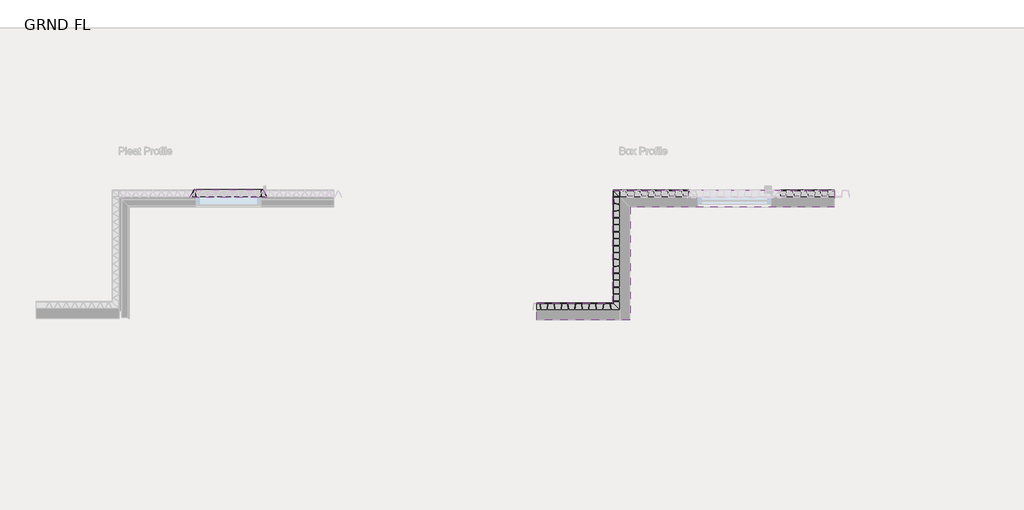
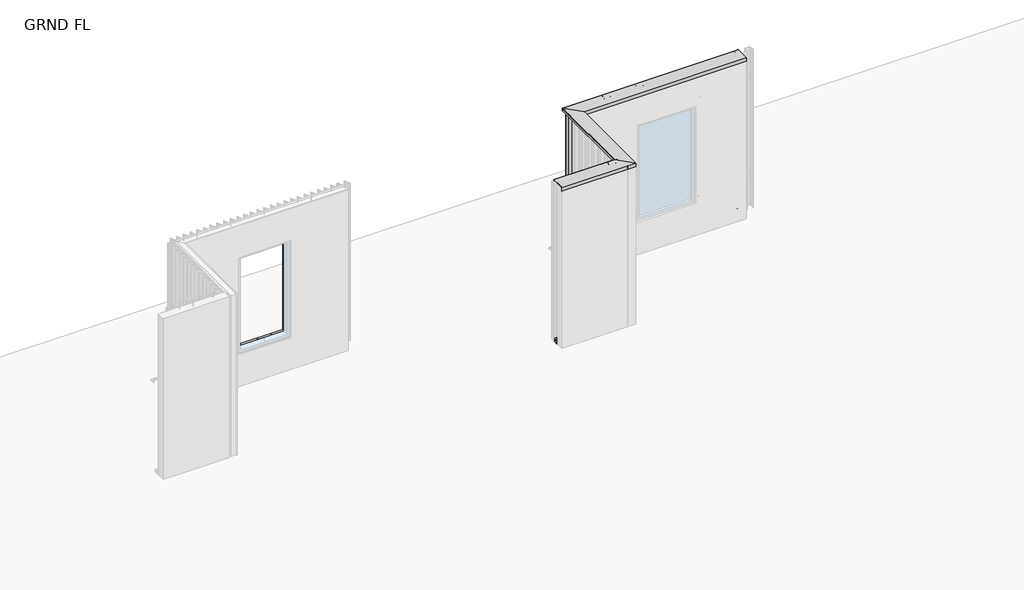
# One storey, part 10 of 13: 6 proxies.
"""IFC4 building model written with IfcOpenShell, lengths in millimetres."""

from ifc_helpers import new_model, si_unit, frame, origin, place, context, project, spatial, polyline, circle_curve, ellipse_curve, outline, extrude, faceted_brep, element, save
from ifc_brep_helpers import plane_surface, cylinder_surface, revolved_surface, advanced_brep

model = new_model("IFC4")

# Units and contexts
model_context = context("Model", 3, world=origin())
ifc_project = project(units=[si_unit("LENGTHUNIT", "METRE", prefix="MILLI")], contexts=[model_context])

# Site, building, storey
site = spatial("IfcSite", under=ifc_project)
building = spatial("IfcBuilding", under=site)
storey = spatial("IfcBuildingStorey", under=building, Name="GRND FL", Elevation=35277.5920148)

# Proxies
placement = place(None, origin())
element("IfcBuildingElementProxy", 1, Name="Nineline Pleat Jamb Flashing 10x105", ObjectType="Nineline Pleat Jamb Flashing 10x105", at=placement, inside=storey, context=model_context, shape_type="SweptSolid", body=[
    extrude(outline(polyline([(56490.3904497, -3642.6143634), (56545.2356645, -3743.6267405), (56563.2356645, -3743.6267405), (56563.2356645, -3744.6146039), (56544.6341373, -3744.6146039), (56489.7956426, -3643.6146039), (56481.3963468, -3643.6146039), (56481.3963468, -3767.6146039), (56480.3963468, -3767.6146039), (56480.3963468, -3642.6143634), (56490.3904497, -3642.6143634)])), frame((0.0, 0.0, 35877.5920148), z_axis=(0.0, 0.0, 1.0), x_axis=(1.0, 0.0, 0.0)), (0.0, 0.0, 1.0), 1800.0),
])
element("IfcBuildingElementProxy", 2, Name="Nineline Parapet Capping 235", ObjectType="Nineline Parapet Capping 235", at=placement, inside=storey, context=model_context, shape_type="AdvancedBrep", body=[
    advanced_brep(
    [(61398.6836337, -3650.6146039, 38279.5924717), (61398.6836337, -3650.6146039, 38232.5920148), (61402.6836337, -3654.6146039, 38265.1694005), (61401.6910875, -3653.6220578, 38265.2912699), (61399.6836337, -3651.6146039, 38248.9418703), (61399.6836337, -3651.6146039, 38279.5924717), (61401.7185385, -3653.6495087, 38281.5921671), (61637.6836337, -3889.6146039, 38277.473381), (61637.6836337, -3889.6146039, 38212.5920148), (61638.6836337, -3890.6146039, 38212.5920148), (61638.6836337, -3890.6146039, 38278.4560783), (61401.7359909, -3653.6669611, 38282.5920148), (64493.6836337, -3650.6146039, 38279.5924717), (64493.6836337, -3653.6669611, 38282.5920148), (64493.6836337, -3890.6146039, 38278.4560783), (64493.6836337, -3890.6146039, 38212.5920148), (64493.6836337, -3889.6146039, 38212.5920148), (64493.6836337, -3889.6146039, 38277.473381), (64493.6836337, -3653.6495087, 38281.5921671), (64493.6836337, -3651.6146039, 38279.5924717), (64493.6836337, -3651.6146039, 38248.9418703), (64493.6836337, -3653.6220578, 38265.2912699), (64493.6836337, -3654.6146039, 38265.1694005), (64493.6836337, -3650.6146039, 38232.5920148)],
    [
        (0, 1),
        (1, 2),
        (2, 3),
        (3, 4),
        (4, 5),
        (5, 6, ellipse_curve(frame((61401.6836337, -3653.6146039, 38279.5924717), z_axis=(0.7071067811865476, 0.7071067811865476, 0.0), x_axis=(0.7071067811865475, -0.7071067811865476, 0.0)), 2.8284271, 2.0)),
        (6, 7),
        (7, 8),
        (8, 9),
        (9, 10),
        (10, 11),
        (11, 0, ellipse_curve(frame((61401.6836337, -3653.6146039, 38279.5924717), z_axis=(-0.7071067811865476, -0.7071067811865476, 0.0), x_axis=(-0.7071067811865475, 0.7071067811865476, 0.0)), 4.2426407, 3.0)),
        (12, 13, circle_curve(frame((64493.6836337, -3653.6146039, 38279.5924717), z_axis=(1.0, 0.0, 0.0), x_axis=(0.0, 1.0, 0.0)), 3.0)),
        (13, 14),
        (14, 15),
        (15, 16),
        (16, 17),
        (17, 18),
        (18, 19, circle_curve(frame((64493.6836337, -3653.6146039, 38279.5924717), z_axis=(-1.0, 0.0, 0.0), x_axis=(0.0, 1.0, 0.0)), 2.0)),
        (19, 20),
        (20, 21),
        (21, 22),
        (22, 23),
        (23, 12),
        (0, 12),
        (23, 1),
        (22, 2),
        (21, 3),
        (20, 4),
        (19, 5),
        (18, 6),
        (17, 7),
        (16, 8),
        (15, 9),
        (14, 10),
        (13, 11),
    ],
    [
        plane_surface(frame((61493.6836337, -3745.6146039, 38582.3920148), z_axis=(-0.7071067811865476, -0.7071067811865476, 0.0), x_axis=(0.7071067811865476, -0.7071067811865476, 0.0))),
        plane_surface(frame((64493.6836337, -3745.6146039, 38118.689529), z_axis=(1.0, 0.0, 0.0), x_axis=(0.0, 1.0, 0.0))),
        plane_surface(frame((61398.6836337, -3650.6146039, 38279.5924717), z_axis=(0.0, 1.0, 0.0), x_axis=(1.0, 0.0, 0.0))),
        plane_surface(frame((61398.6836337, -3650.6146039, 38232.5920148), z_axis=(0.0, -0.9925461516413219, -0.12186934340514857), x_axis=(1.0, 0.0, 0.0))),
        plane_surface(frame((61402.6836337, -3654.6146039, 38265.1694005), z_axis=(0.0, -0.12186934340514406, 0.9925461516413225), x_axis=(1.0, 0.0, 0.0))),
        plane_surface(frame((61401.6910875, -3653.6220578, 38265.2912699), z_axis=(0.0, 0.992546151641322, 0.12186934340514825), x_axis=(1.0, 0.0, 0.0))),
        plane_surface(frame((61399.6836337, -3651.6146039, 38248.9418703), z_axis=(0.0, -1.0, 0.0), x_axis=(1.0, 0.0, 0.0))),
        revolved_surface(polyline([(64493.6836337, -3651.6146039, 38279.5924717), (61399.6836337, -3651.6146039, 38279.5924717)]), (61493.6836337, -3653.6146039, 38279.5924717), (1.0, 0.0, 0.0)),
        plane_surface(frame((61401.7185385, -3653.6495087, 38281.5921671), z_axis=(0.0, 0.017452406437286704, -0.9998476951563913), x_axis=(1.0, 0.0, 0.0))),
        plane_surface(frame((61637.6836337, -3889.6146039, 38277.473381), z_axis=(0.0, 1.0, 0.0), x_axis=(1.0, 0.0, 0.0))),
        plane_surface(frame((61637.6836337, -3889.6146039, 38212.5920148), z_axis=(0.0, 0.0, -1.0), x_axis=(1.0, 0.0, 0.0))),
        plane_surface(frame((61638.6836337, -3890.6146039, 38212.5920148), z_axis=(0.0, -1.0, 0.0), x_axis=(1.0, 0.0, 0.0))),
        plane_surface(frame((61638.6836337, -3890.6146039, 38278.4560783), z_axis=(0.0, -0.017452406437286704, 0.9998476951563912), x_axis=(1.0, 0.0, 0.0))),
        cylinder_surface(frame((61493.6836337, -3653.6146039, 38279.5924717), z_axis=(-1.0, 0.0, 0.0), x_axis=(0.0, 1.0, 0.0)), 3.0),
    ],
    [
        (0, [[1, 2, 3, 4, 5, 6, 7, 8, 9, 10, 11, 12]]),
        (1, [[13, 14, 15, 16, 17, 18, 19, 20, 21, 22, 23, 24]]),
        (2, [[-1, 25, -24, 26]]),
        (3, [[-2, -26, -23, 27]]),
        (4, [[-3, -27, -22, 28]]),
        (5, [[-4, -28, -21, 29]]),
        (6, [[-5, -29, -20, 30]]),
        (7, [[-6, -30, -19, 31]]),
        (8, [[-7, -31, -18, 32]]),
        (9, [[-8, -32, -17, 33]]),
        (10, [[-9, -33, -16, 34]]),
        (11, [[-10, -34, -15, 35]]),
        (12, [[-11, -35, -14, 36]]),
        (13, [[-12, -36, -13, -25]]),
    ],
),
    advanced_brep(
    [(61398.6836337, -3650.6146039, 38279.5924717), (61401.7359909, -3653.6669611, 38282.5920148), (61638.6836337, -3890.6146039, 38278.4560783), (61638.6836337, -3890.6146039, 38212.5920148), (61637.6836337, -3889.6146039, 38212.5920148), (61637.6836337, -3889.6146039, 38277.473381), (61401.7185385, -3653.6495087, 38281.5921671), (61399.6836337, -3651.6146039, 38279.5924717), (61399.6836337, -3651.6146039, 38248.9418703), (61401.6910875, -3653.6220578, 38265.2912699), (61402.6836337, -3654.6146039, 38265.1694005), (61398.6836337, -3650.6146039, 38232.5920148), (61398.6836337, -5231.6302289, 38279.5924717), (61398.6836337, -5231.6302289, 38232.5920148), (61402.6836337, -5235.6302289, 38265.1694005), (61401.6910875, -5234.6376828, 38265.2912699), (61399.6836337, -5232.6302289, 38248.9418703), (61399.6836337, -5232.6302289, 38279.5924717), (61401.7185385, -5234.6651337, 38281.5921671), (61637.6836337, -5470.6302289, 38277.473381), (61637.6836337, -5470.6302289, 38212.5920148), (61638.6836337, -5471.6302289, 38212.5920148), (61638.6836337, -5471.6302289, 38278.4560783), (61401.7359909, -5234.6825861, 38282.5920148)],
    [
        (0, 1, ellipse_curve(frame((61401.6836337, -3653.6146039, 38279.5924717), z_axis=(0.7071067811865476, 0.7071067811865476, 0.0), x_axis=(-0.7071067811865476, 0.7071067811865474, 0.0)), 4.2426407, 3.0)),
        (1, 2),
        (2, 3),
        (3, 4),
        (4, 5),
        (5, 6),
        (6, 7, ellipse_curve(frame((61401.6836337, -3653.6146039, 38279.5924717), z_axis=(-0.7071067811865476, -0.7071067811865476, 0.0), x_axis=(0.7071067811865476, -0.7071067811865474, 0.0)), 2.8284271, 2.0)),
        (7, 8),
        (8, 9),
        (9, 10),
        (10, 11),
        (11, 0),
        (12, 13),
        (13, 14),
        (14, 15),
        (15, 16),
        (16, 17),
        (17, 18, ellipse_curve(frame((61401.6836337, -5234.6302289, 38279.5924717), z_axis=(0.7071067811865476, 0.7071067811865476, 0.0), x_axis=(0.7071067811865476, -0.7071067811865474, 0.0)), 2.8284271, 2.0)),
        (18, 19),
        (19, 20),
        (20, 21),
        (21, 22),
        (22, 23),
        (23, 12, ellipse_curve(frame((61401.6836337, -5234.6302289, 38279.5924717), z_axis=(-0.7071067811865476, -0.7071067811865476, 0.0), x_axis=(-0.7071067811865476, 0.7071067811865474, 0.0)), 4.2426407, 3.0)),
        (0, 12),
        (23, 1),
        (22, 2),
        (21, 3),
        (20, 4),
        (19, 5),
        (18, 6),
        (17, 7),
        (16, 8),
        (15, 9),
        (14, 10),
        (13, 11),
    ],
    [
        plane_surface(frame((61493.6836337, -3745.6146039, 37972.7920148), z_axis=(0.7071067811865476, 0.7071067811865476, 0.0), x_axis=(0.7071067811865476, -0.7071067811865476, 0.0))),
        plane_surface(frame((61493.6836337, -5326.6302289, 38582.3920148), z_axis=(-0.7071067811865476, -0.7071067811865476, 0.0), x_axis=(-0.7071067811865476, 0.7071067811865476, 0.0))),
        cylinder_surface(frame((61401.6836337, -3745.6146039, 38279.5924717), z_axis=(0.0, 1.0, 0.0), x_axis=(-1.0, 0.0, 0.0)), 3.0),
        plane_surface(frame((61401.7359909, -3653.6669611, 38282.5920148), z_axis=(0.017452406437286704, 0.0, 0.9998476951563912), x_axis=(0.0, -1.0, 0.0))),
        plane_surface(frame((61638.6836337, -3890.6146039, 38278.4560783), z_axis=(1.0, 0.0, 0.0), x_axis=(0.0, -1.0, 0.0))),
        plane_surface(frame((61638.6836337, -3890.6146039, 38212.5920148), z_axis=(0.0, 0.0, -1.0), x_axis=(0.0, -1.0, 0.0))),
        plane_surface(frame((61637.6836337, -3889.6146039, 38212.5920148), z_axis=(-1.0, 0.0, 0.0), x_axis=(0.0, -1.0, 0.0))),
        plane_surface(frame((61637.6836337, -3889.6146039, 38277.473381), z_axis=(-0.017452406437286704, 0.0, -0.9998476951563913), x_axis=(0.0, -1.0, 0.0))),
        revolved_surface(polyline([(61399.6836337, -5236.630228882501, 38279.5924717), (61399.6836337, -3651.6146039, 38279.5924717)]), (61401.6836337, -3745.6146039, 38279.5924717), (0.0, -1.0, 0.0)),
        plane_surface(frame((61399.6836337, -3651.6146039, 38279.5924717), z_axis=(1.0, 0.0, 0.0), x_axis=(0.0, -1.0, 0.0))),
        plane_surface(frame((61399.6836337, -3651.6146039, 38248.9418703), z_axis=(-0.992546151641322, 0.0, 0.12186934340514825), x_axis=(0.0, -1.0, 0.0))),
        plane_surface(frame((61401.6910875, -3653.6220578, 38265.2912699), z_axis=(0.12186934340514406, 0.0, 0.9925461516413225), x_axis=(0.0, -1.0, 0.0))),
        plane_surface(frame((61402.6836337, -3654.6146039, 38265.1694005), z_axis=(0.9925461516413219, 0.0, -0.12186934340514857), x_axis=(0.0, -1.0, 0.0))),
        plane_surface(frame((61398.6836337, -3650.6146039, 38232.5920148), z_axis=(-1.0, 0.0, 0.0), x_axis=(0.0, -1.0, 0.0))),
    ],
    [
        (0, [[1, 2, 3, 4, 5, 6, 7, 8, 9, 10, 11, 12]]),
        (1, [[13, 14, 15, 16, 17, 18, 19, 20, 21, 22, 23, 24]]),
        (2, [[-1, 25, -24, 26]]),
        (3, [[-2, -26, -23, 27]]),
        (4, [[-3, -27, -22, 28]]),
        (5, [[-4, -28, -21, 29]]),
        (6, [[-5, -29, -20, 30]]),
        (7, [[-6, -30, -19, 31]]),
        (8, [[-7, -31, -18, 32]]),
        (9, [[-8, -32, -17, 33]]),
        (10, [[-9, -33, -16, 34]]),
        (11, [[-10, -34, -15, 35]]),
        (12, [[-11, -35, -14, 36]]),
        (13, [[-12, -36, -13, -25]]),
    ],
),
    advanced_brep(
    [(61398.6836337, -5231.6302289, 38279.5924717), (61401.7359909, -5234.6825861, 38282.5920148), (61638.6836337, -5471.6302289, 38278.4560783), (61638.6836337, -5471.6302289, 38212.5920148), (61637.6836337, -5470.6302289, 38212.5920148), (61637.6836337, -5470.6302289, 38277.473381), (61401.7185385, -5234.6651337, 38281.5921671), (61399.6836337, -5232.6302289, 38279.5924717), (61399.6836337, -5232.6302289, 38248.9418703), (61401.6910875, -5234.6376828, 38265.2912699), (61402.6836337, -5235.6302289, 38265.1694005), (61398.6836337, -5231.6302289, 38232.5920148), (60334.6836337, -5231.6302289, 38279.5924717), (60334.6836337, -5231.6302289, 38232.5920148), (60334.6836337, -5235.6302289, 38265.1694005), (60334.6836337, -5234.6376828, 38265.2912699), (60334.6836337, -5232.6302289, 38248.9418703), (60334.6836337, -5232.6302289, 38279.5924717), (60334.6836337, -5234.6651337, 38281.5921671), (60334.6836337, -5470.6302289, 38277.473381), (60334.6836337, -5470.6302289, 38212.5920148), (60334.6836337, -5471.6302289, 38212.5920148), (60334.6836337, -5471.6302289, 38278.4560783), (60334.6836337, -5234.6825861, 38282.5920148)],
    [
        (0, 1, ellipse_curve(frame((61401.6836337, -5234.6302289, 38279.5924717), z_axis=(0.7071067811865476, 0.7071067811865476, 0.0), x_axis=(0.7071067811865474, -0.7071067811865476, 0.0)), 4.2426407, 3.0)),
        (1, 2),
        (2, 3),
        (3, 4),
        (4, 5),
        (5, 6),
        (6, 7, ellipse_curve(frame((61401.6836337, -5234.6302289, 38279.5924717), z_axis=(-0.7071067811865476, -0.7071067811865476, 0.0), x_axis=(-0.7071067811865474, 0.7071067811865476, 0.0)), 2.8284271, 2.0)),
        (7, 8),
        (8, 9),
        (9, 10),
        (10, 11),
        (11, 0),
        (12, 13),
        (13, 14),
        (14, 15),
        (15, 16),
        (16, 17),
        (17, 18, circle_curve(frame((60334.6836337, -5234.6302289, 38279.5924717), z_axis=(1.0, 0.0, 0.0), x_axis=(0.0, 1.0, 0.0)), 2.0)),
        (18, 19),
        (19, 20),
        (20, 21),
        (21, 22),
        (22, 23),
        (23, 12, circle_curve(frame((60334.6836337, -5234.6302289, 38279.5924717), z_axis=(-1.0, 0.0, 0.0), x_axis=(0.0, 1.0, 0.0)), 3.0)),
        (0, 12),
        (23, 1),
        (22, 2),
        (21, 3),
        (20, 4),
        (19, 5),
        (18, 6),
        (17, 7),
        (16, 8),
        (15, 9),
        (14, 10),
        (13, 11),
    ],
    [
        plane_surface(frame((61493.6836337, -5326.6302289, 38582.3920148), z_axis=(0.7071067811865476, 0.7071067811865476, 0.0), x_axis=(-0.7071067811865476, 0.7071067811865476, 0.0))),
        plane_surface(frame((60334.6836337, -5326.6302289, 38118.689529), z_axis=(-1.0, 0.0, 0.0), x_axis=(0.0, -1.0, 0.0))),
        cylinder_surface(frame((61493.6836337, -5234.6302289, 38279.5924717), z_axis=(1.0, 0.0, 0.0), x_axis=(0.0, 1.0, 0.0)), 3.0),
        plane_surface(frame((61401.7359909, -5234.6825861, 38282.5920148), z_axis=(0.0, -0.017452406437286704, 0.9998476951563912), x_axis=(-1.0, 0.0, 0.0))),
        plane_surface(frame((61638.6836337, -5471.6302289, 38278.4560783), z_axis=(0.0, -1.0, 0.0), x_axis=(-1.0, 0.0, 0.0))),
        plane_surface(frame((61638.6836337, -5471.6302289, 38212.5920148), z_axis=(0.0, 0.0, -1.0), x_axis=(-1.0, 0.0, 0.0))),
        plane_surface(frame((61637.6836337, -5470.6302289, 38212.5920148), z_axis=(0.0, 1.0, 0.0), x_axis=(-1.0, 0.0, 0.0))),
        plane_surface(frame((61637.6836337, -5470.6302289, 38277.473381), z_axis=(0.0, 0.017452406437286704, -0.9998476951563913), x_axis=(-1.0, 0.0, 0.0))),
        revolved_surface(polyline([(60334.6836337, -5232.6302289, 38279.5924717), (61403.6836336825, -5232.6302289, 38279.5924717)]), (61493.6836337, -5234.6302289, 38279.5924717), (-1.0, 0.0, 0.0)),
        plane_surface(frame((61399.6836337, -5232.6302289, 38279.5924717), z_axis=(0.0, -1.0, 0.0), x_axis=(-1.0, 0.0, 0.0))),
        plane_surface(frame((61399.6836337, -5232.6302289, 38248.9418703), z_axis=(0.0, 0.992546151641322, 0.12186934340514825), x_axis=(-1.0, 0.0, 0.0))),
        plane_surface(frame((61401.6910875, -5234.6376828, 38265.2912699), z_axis=(0.0, -0.12186934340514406, 0.9925461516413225), x_axis=(-1.0, 0.0, 0.0))),
        plane_surface(frame((61402.6836337, -5235.6302289, 38265.1694005), z_axis=(0.0, -0.9925461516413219, -0.12186934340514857), x_axis=(-1.0, 0.0, 0.0))),
        plane_surface(frame((61398.6836337, -5231.6302289, 38232.5920148), z_axis=(0.0, 1.0, 0.0), x_axis=(-1.0, 0.0, 0.0))),
    ],
    [
        (0, [[1, 2, 3, 4, 5, 6, 7, 8, 9, 10, 11, 12]]),
        (1, [[13, 14, 15, 16, 17, 18, 19, 20, 21, 22, 23, 24]]),
        (2, [[-1, 25, -24, 26]]),
        (3, [[-2, -26, -23, 27]]),
        (4, [[-3, -27, -22, 28]]),
        (5, [[-4, -28, -21, 29]]),
        (6, [[-5, -29, -20, 30]]),
        (7, [[-6, -30, -19, 31]]),
        (8, [[-7, -31, -18, 32]]),
        (9, [[-8, -32, -17, 33]]),
        (10, [[-9, -33, -16, 34]]),
        (11, [[-10, -34, -15, 35]]),
        (12, [[-11, -35, -14, 36]]),
        (13, [[-12, -36, -13, -25]]),
    ],
),
])
element("IfcBuildingElementProxy", 3, Name="Nineline Sill Flashing 90x50 V1", ObjectType="Nineline Sill Flashing 90x50 V1", at=placement, inside=storey, context=model_context, shape_type="Brep", body=[
    faceted_brep([(55544.8255265, -3643.6146039, 35869.5920148), (55544.8255265, -3643.6146039, 35879.5919856), (56505.1927727, -3643.6146039, 35879.5919856), (56505.1927727, -3643.6146039, 35869.5920148), (55611.4585244, -3755.6146039, 35880.5468006), (55545.420464, -3644.6146039, 35878.6092884), (56504.5978352, -3644.6146039, 35878.6092884), (56438.5597748, -3755.6146039, 35880.5468006), (55611.4585244, -3755.6146039, 35886.5920148), (56438.5597748, -3755.6146039, 35886.5920148), (55610.8635869, -3754.6146039, 35886.5920148), (56439.1547123, -3754.6146039, 35886.5920148), (55610.8635869, -3754.6146039, 35881.5294978), (56439.1547123, -3754.6146039, 35881.5294978), (56566.1560507, -3755.8949944, 35879.5919856), (56439.8499076, -3755.8949944, 35881.5294978), (56439.8499076, -3755.8949944, 35886.5920148), (56438.7120144, -3755.8949944, 35886.5920148), (56438.7120144, -3755.8949944, 35880.5468006), (56565.0181575, -3755.8949944, 35878.6092884), (56565.0181575, -3755.8949944, 35870.5920148), (56553.6392257, -3755.8949944, 35870.5920148), (56553.6392257, -3755.8949944, 35865.2632966), (56552.7983524, -3755.8949944, 35867.2936106), (56551.7290826, -3755.8949944, 35866.9515905), (56554.7771189, -3755.8949944, 35859.5920148), (56554.7771189, -3755.8949944, 35869.5920148), (56566.1560507, -3755.8949944, 35869.5920148), (55483.8622485, -3755.8949944, 35879.5919856), (55483.8622485, -3755.8949944, 35869.5920148), (55495.2411803, -3755.8949944, 35869.5920148), (55495.2411803, -3755.8949944, 35859.5920148), (55498.2892166, -3755.8949944, 35866.9515905), (55497.2199468, -3755.8949944, 35867.2936106), (55496.3790735, -3755.8949944, 35865.2632966), (55496.3790735, -3755.8949944, 35870.5920148), (55485.0001417, -3755.8949944, 35870.5920148), (55485.0001417, -3755.8949944, 35878.6092884), (55611.3062848, -3755.8949944, 35880.5468006), (55611.3062848, -3755.8949944, 35886.5920148), (55610.1683916, -3755.8949944, 35886.5920148), (55610.1683916, -3755.8949944, 35881.5294978), (55550.7749013, -3653.6146039, 35869.5920148), (55550.7749013, -3653.6146039, 35859.5920148), (55551.3698388, -3654.6146039, 35865.2632966), (55551.3698388, -3654.6146039, 35870.5920148), (55545.420464, -3644.6146039, 35870.5920148), (56499.2433979, -3653.6146039, 35869.5920148), (56499.2433979, -3653.6146039, 35859.5920148), (56498.6484604, -3654.6146039, 35865.2632966), (56498.6484604, -3654.6146039, 35870.5920148), (56504.5978352, -3644.6146039, 35870.5920148), (55552.3685404, -3656.2932704, 35866.9515905), (55551.809482, -3655.3535778, 35867.2936106), (56497.6497588, -3656.2932704, 35866.9515905), (56498.2088172, -3655.3535778, 35867.2936106)], [[[0, 1, 2, 3]], [[4, 5, 6, 7]], [[8, 4, 7, 9]], [[10, 8, 9, 11]], [[12, 10, 11, 13]], [[1, 12, 13, 2]], [[14, 15, 16, 17, 18, 19, 20, 21, 22, 23, 24, 25, 26, 27]], [[3, 2, 14, 27]], [[7, 6, 19, 18]], [[9, 7, 18, 17]], [[11, 9, 17, 16]], [[13, 11, 16, 15]], [[2, 13, 15, 14]], [[28, 29, 30, 31, 32, 33, 34, 35, 36, 37, 38, 39, 40, 41]], [[29, 28, 1, 0]], [[38, 37, 5, 4]], [[39, 38, 4, 8]], [[40, 39, 8, 10]], [[41, 40, 10, 12]], [[28, 41, 12, 1]], [[30, 29, 0, 42]], [[31, 30, 42, 43]], [[35, 34, 44, 45]], [[36, 35, 45, 46]], [[37, 36, 46, 5]], [[42, 0, 3, 47]], [[43, 42, 47, 48]], [[45, 44, 49, 50]], [[46, 45, 50, 51]], [[5, 46, 51, 6]], [[47, 3, 27, 26]], [[48, 47, 26, 25]], [[50, 49, 22, 21]], [[51, 50, 21, 20]], [[6, 51, 20, 19]], [[32, 31, 43, 52]], [[33, 32, 52, 53]], [[34, 33, 53, 44]], [[52, 43, 48, 54]], [[53, 52, 54, 55]], [[44, 53, 55, 49]], [[54, 48, 25, 24]], [[55, 54, 24, 23]], [[49, 55, 23, 22]]]),
])
element("IfcBuildingElementProxy", 4, Name="Nineline Head Flashing 90x10", ObjectType="Nineline Head Flashing 90x10", at=placement, inside=storey, context=model_context, shape_type="Brep", body=[
    faceted_brep([(55544.3425489, -3641.6146039, 37677.5920148), (55544.3425489, -3641.6146039, 37687.5920148), (56505.8704473, -3641.6146039, 37687.5920148), (56505.8704473, -3641.6146039, 37677.5920148), (55544.9374863, -3642.6146039, 37686.6093175), (55544.9374863, -3642.6146039, 37678.6275451), (56505.2755099, -3642.6146039, 37678.6275451), (56505.2755099, -3642.6146039, 37686.6093175), (55606.8109844, -3746.6146039, 37688.4246443), (56443.4020118, -3746.6146039, 37688.4246443), (55606.8109844, -3746.6146039, 37787.5920148), (56443.4020118, -3746.6146039, 37787.5920148), (55606.2160469, -3745.6146039, 37787.5920148), (56443.9969493, -3745.6146039, 37787.5920148), (55606.2160469, -3745.6146039, 37689.4073415), (56443.9969493, -3745.6146039, 37689.4073415), (56567.9196367, -3755.8949944, 37687.5920148), (56449.5787459, -3755.8949944, 37689.4073415), (56449.5787459, -3755.8949944, 37787.5920148), (56448.4408527, -3755.8949944, 37787.5920148), (56448.4408527, -3755.8949944, 37688.4246443), (56566.7817436, -3755.8949944, 37686.6093175), (56566.7817436, -3755.8949944, 37678.6275451), (56439.3377073, -3755.8949944, 37682.5386713), (56439.3377073, -3755.8949944, 37691.5729825), (56438.1998141, -3755.8949944, 37691.5729825), (56438.1998141, -3755.8949944, 37681.5729825), (56567.9196367, -3755.8949944, 37677.5920148), (55480.7177747, -3758.7968606, 37687.5920148), (55480.7177747, -3758.7968606, 37677.5920148), (55610.4375974, -3758.7968606, 37681.5729825), (55610.4375974, -3758.7968606, 37691.5729825), (55609.2997042, -3758.7968606, 37691.5729825), (55609.2997042, -3758.7968606, 37682.5386713), (55481.8556679, -3758.7968606, 37678.6275451), (55481.8556679, -3758.7968606, 37686.6093175), (55600.1965587, -3758.7968606, 37688.4246443), (55600.1965587, -3758.7968606, 37787.5920148), (55599.0586655, -3758.7968606, 37787.5920148), (55599.0586655, -3758.7968606, 37689.4073415), (55612.1654218, -3755.6146039, 37681.5729825), (55612.1654218, -3755.6146039, 37691.5729825), (55611.5704843, -3754.6146039, 37691.5729825), (55611.5704843, -3754.6146039, 37682.5386713), (56438.0475745, -3755.6146039, 37681.5729825), (56438.0475745, -3755.6146039, 37691.5729825), (56438.6425119, -3754.6146039, 37691.5729825), (56438.6425119, -3754.6146039, 37682.5386713)], [[[0, 1, 2, 3]], [[4, 5, 6, 7]], [[8, 4, 7, 9]], [[10, 8, 9, 11]], [[12, 10, 11, 13]], [[14, 12, 13, 15]], [[1, 14, 15, 2]], [[16, 17, 18, 19, 20, 21, 22, 23, 24, 25, 26, 27]], [[3, 2, 16, 27]], [[7, 6, 22, 21]], [[9, 7, 21, 20]], [[11, 9, 20, 19]], [[13, 11, 19, 18]], [[15, 13, 18, 17]], [[2, 15, 17, 16]], [[28, 29, 30, 31, 32, 33, 34, 35, 36, 37, 38, 39]], [[29, 28, 1, 0]], [[35, 34, 5, 4]], [[36, 35, 4, 8]], [[37, 36, 8, 10]], [[38, 37, 10, 12]], [[39, 38, 12, 14]], [[28, 39, 14, 1]], [[30, 29, 0, 40]], [[31, 30, 40, 41]], [[32, 31, 41, 42]], [[33, 32, 42, 43]], [[34, 33, 43, 5]], [[40, 0, 3, 44]], [[41, 40, 44, 45]], [[42, 41, 45, 46]], [[43, 42, 46, 47]], [[5, 43, 47, 6]], [[44, 3, 27, 26]], [[45, 44, 26, 25]], [[46, 45, 25, 24]], [[47, 46, 24, 23]], [[6, 47, 23, 22]]]),
])
element("IfcBuildingElementProxy", 5, Name="Nineline Toe Flashing 90", ObjectType="Nineline Toe Flashing 90", at=placement, inside=storey, context=model_context, shape_type="AdvancedBrep", body=[
    advanced_brep(
    [(61399.6836337, -5232.6302289, 35324.5924717), (61402.6312764, -5235.5778717, 35327.5920148), (61493.6836337, -5326.6302289, 35329.1813396), (61493.6836337, -5326.6302289, 35407.5920148), (61494.6836337, -5327.6302289, 35407.5920148), (61494.6836337, -5327.6302289, 35328.1986423), (61402.6487288, -5235.5953241, 35326.5921671), (61400.6836337, -5233.6302289, 35324.5924717), (61400.6836337, -5233.6302289, 35280.5920148), (61402.6836337, -5235.6302289, 35278.5920148), (61490.2694201, -5323.2160153, 35278.5920148), (61474.2988573, -5307.2454526, 35294.5625775), (61475.0059641, -5307.9525594, 35295.2696843), (61492.6836337, -5325.6302289, 35277.5920148), (61402.6836337, -5235.6302289, 35277.5920148), (61399.6836337, -5232.6302289, 35280.5920148), (60334.6836337, -5232.6302289, 35324.5924717), (60334.6836337, -5232.6302289, 35280.5920148), (60334.6836337, -5235.6302289, 35277.5920148), (60334.6836337, -5325.6302289, 35277.5920148), (60334.6836337, -5307.9525594, 35295.2696843), (60334.6836337, -5307.2454526, 35294.5625775), (60334.6836337, -5323.2160153, 35278.5920148), (60334.6836337, -5235.6302289, 35278.5920148), (60334.6836337, -5233.6302289, 35280.5920148), (60334.6836337, -5233.6302289, 35324.5924717), (60334.6836337, -5235.5953241, 35326.5921671), (60334.6836337, -5327.6302289, 35328.1986423), (60334.6836337, -5327.6302289, 35407.5920148), (60334.6836337, -5326.6302289, 35407.5920148), (60334.6836337, -5326.6302289, 35329.1813396), (60334.6836337, -5235.5778717, 35327.5920148)],
    [
        (0, 1, ellipse_curve(frame((61402.6836337, -5235.6302289, 35324.5924717), z_axis=(0.7071067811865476, 0.7071067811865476, 0.0), x_axis=(0.7071067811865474, -0.7071067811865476, 0.0)), 4.2426407, 3.0)),
        (1, 2),
        (2, 3),
        (3, 4),
        (4, 5),
        (5, 6),
        (6, 7, ellipse_curve(frame((61402.6836337, -5235.6302289, 35324.5924717), z_axis=(-0.7071067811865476, -0.7071067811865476, 0.0), x_axis=(-0.7071067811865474, 0.7071067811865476, 0.0)), 2.8284271, 2.0)),
        (7, 8),
        (8, 9, ellipse_curve(frame((61402.6836337, -5235.6302289, 35280.5920148), z_axis=(-0.7071067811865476, -0.7071067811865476, 0.0), x_axis=(-0.7071067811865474, 0.7071067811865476, 0.0)), 2.8284271, 2.0)),
        (9, 10),
        (10, 11),
        (11, 12),
        (12, 13),
        (13, 14),
        (14, 15, ellipse_curve(frame((61402.6836337, -5235.6302289, 35280.5920148), z_axis=(0.7071067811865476, 0.7071067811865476, 0.0), x_axis=(0.7071067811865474, -0.7071067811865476, 0.0)), 4.2426407, 3.0)),
        (15, 0),
        (16, 17),
        (17, 18, circle_curve(frame((60334.6836337, -5235.6302289, 35280.5920148), z_axis=(-1.0, 0.0, 0.0), x_axis=(0.0, 1.0, 0.0)), 3.0)),
        (18, 19),
        (19, 20),
        (20, 21),
        (21, 22),
        (22, 23),
        (23, 24, circle_curve(frame((60334.6836337, -5235.6302289, 35280.5920148), z_axis=(1.0, 0.0, 0.0), x_axis=(0.0, 1.0, 0.0)), 2.0)),
        (24, 25),
        (25, 26, circle_curve(frame((60334.6836337, -5235.6302289, 35324.5924717), z_axis=(1.0, 0.0, 0.0), x_axis=(0.0, 1.0, 0.0)), 2.0)),
        (26, 27),
        (27, 28),
        (28, 29),
        (29, 30),
        (30, 31),
        (31, 16, circle_curve(frame((60334.6836337, -5235.6302289, 35324.5924717), z_axis=(-1.0, 0.0, 0.0), x_axis=(0.0, 1.0, 0.0)), 3.0)),
        (0, 16),
        (31, 1),
        (30, 2),
        (29, 3),
        (28, 4),
        (27, 5),
        (26, 6),
        (25, 7),
        (24, 8),
        (23, 9),
        (22, 10),
        (21, 11),
        (20, 12),
        (19, 13),
        (18, 14),
        (17, 15),
    ],
    [
        plane_surface(frame((61494.6836337, -5327.6302289, 35612.3920148), z_axis=(0.7071067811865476, 0.7071067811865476, 0.0), x_axis=(-0.7071067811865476, 0.7071067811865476, 0.0))),
        plane_surface(frame((60334.6836337, -5327.6302289, 35207.5870149), z_axis=(-1.0, 0.0, 0.0), x_axis=(0.0, -1.0, 0.0))),
        cylinder_surface(frame((61494.6836337, -5235.6302289, 35324.5924717), z_axis=(1.0, 0.0, 0.0), x_axis=(0.0, 1.0, 0.0)), 3.0),
        plane_surface(frame((61402.6312764, -5235.5778717, 35327.5920148), z_axis=(0.0, 0.017452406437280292, 0.9998476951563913), x_axis=(-1.0, 0.0, 0.0))),
        plane_surface(frame((61493.6836337, -5326.6302289, 35329.1813396), z_axis=(0.0, 1.0, 0.0), x_axis=(-1.0, 0.0, 0.0))),
        plane_surface(frame((61493.6836337, -5326.6302289, 35407.5920148), z_axis=(0.0, 0.0, 1.0), x_axis=(-1.0, 0.0, 0.0))),
        plane_surface(frame((61494.6836337, -5327.6302289, 35407.5920148), z_axis=(0.0, -1.0, 0.0), x_axis=(-1.0, 0.0, 0.0))),
        plane_surface(frame((61494.6836337, -5327.6302289, 35328.1986423), z_axis=(0.0, -0.017452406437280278, -0.9998476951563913), x_axis=(-1.0, 0.0, 0.0))),
        revolved_surface(polyline([(60334.6836337, -5233.6302289, 35324.5924717), (61404.6836336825, -5233.6302289, 35324.5924717)]), (61494.6836337, -5235.6302289, 35324.5924717), (-1.0, 0.0, 0.0)),
        plane_surface(frame((61400.6836337, -5233.6302289, 35324.5924717), z_axis=(0.0, -1.0, 0.0), x_axis=(-1.0, 0.0, 0.0))),
        revolved_surface(polyline([(60334.6836337, -5233.6302289, 35280.5920148), (61404.6836336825, -5233.6302289, 35280.5920148)]), (61494.6836337, -5235.6302289, 35280.5920148), (-1.0, 0.0, 0.0)),
        plane_surface(frame((61402.6836337, -5235.6302289, 35278.5920148), z_axis=(0.0, 0.0, 1.0), x_axis=(-1.0, 0.0, 0.0))),
        plane_surface(frame((61490.2694201, -5323.2160153, 35278.5920148), z_axis=(0.0, 0.7071067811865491, -0.707106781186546), x_axis=(-1.0, 0.0, 0.0))),
        plane_surface(frame((61474.2988573, -5307.2454526, 35294.5625775), z_axis=(0.0, 0.7071067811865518, 0.7071067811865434), x_axis=(-1.0, 0.0, 0.0))),
        plane_surface(frame((61475.0059641, -5307.9525594, 35295.2696843), z_axis=(0.0, -0.7071067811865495, 0.7071067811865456), x_axis=(-1.0, 0.0, 0.0))),
        plane_surface(frame((61492.6836337, -5325.6302289, 35277.5920148), z_axis=(0.0, 0.0, -1.0), x_axis=(-1.0, 0.0, 0.0))),
        cylinder_surface(frame((61494.6836337, -5235.6302289, 35280.5920148), z_axis=(1.0, 0.0, 0.0), x_axis=(0.0, 1.0, 0.0)), 3.0),
        plane_surface(frame((61399.6836337, -5232.6302289, 35280.5920148), z_axis=(0.0, 1.0, 0.0), x_axis=(-1.0, 0.0, 0.0))),
    ],
    [
        (0, [[1, 2, 3, 4, 5, 6, 7, 8, 9, 10, 11, 12, 13, 14, 15, 16]]),
        (1, [[17, 18, 19, 20, 21, 22, 23, 24, 25, 26, 27, 28, 29, 30, 31, 32]]),
        (2, [[-1, 33, -32, 34]]),
        (3, [[-2, -34, -31, 35]]),
        (4, [[-3, -35, -30, 36]]),
        (5, [[-4, -36, -29, 37]]),
        (6, [[-5, -37, -28, 38]]),
        (7, [[-6, -38, -27, 39]]),
        (8, [[-7, -39, -26, 40]]),
        (9, [[-8, -40, -25, 41]]),
        (10, [[-9, -41, -24, 42]]),
        (11, [[-10, -42, -23, 43]]),
        (12, [[-11, -43, -22, 44]]),
        (13, [[-12, -44, -21, 45]]),
        (14, [[-13, -45, -20, 46]]),
        (15, [[-14, -46, -19, 47]]),
        (16, [[-15, -47, -18, 48]]),
        (17, [[-16, -48, -17, -33]]),
    ],
),
    advanced_brep(
    [(61399.6836337, -3651.6146039, 35324.5924717), (61399.6836337, -3651.6146039, 35280.5920148), (61402.6836337, -3654.6146039, 35277.5920148), (61492.6836337, -3744.6146039, 35277.5920148), (61475.0059641, -3726.9369344, 35295.2696843), (61474.2988573, -3726.2298276, 35294.5625775), (61490.2694201, -3742.2003903, 35278.5920148), (61402.6836337, -3654.6146039, 35278.5920148), (61400.6836337, -3652.6146039, 35280.5920148), (61400.6836337, -3652.6146039, 35324.5924717), (61402.6487288, -3654.5796991, 35326.5921671), (61494.6836337, -3746.6146039, 35328.1986423), (61494.6836337, -3746.6146039, 35407.5920148), (61493.6836337, -3745.6146039, 35407.5920148), (61493.6836337, -3745.6146039, 35329.1813396), (61402.6312764, -3654.5622467, 35327.5920148), (64493.6836337, -3651.6146039, 35324.5924717), (64493.6836337, -3654.5622467, 35327.5920148), (64493.6836337, -3745.6146039, 35329.1813396), (64493.6836337, -3745.6146039, 35407.5920148), (64493.6836337, -3746.6146039, 35407.5920148), (64493.6836337, -3746.6146039, 35328.1986423), (64493.6836337, -3654.5796991, 35326.5921671), (64493.6836337, -3652.6146039, 35324.5924717), (64493.6836337, -3652.6146039, 35280.5920148), (64493.6836337, -3654.6146039, 35278.5920148), (64493.6836337, -3742.2003903, 35278.5920148), (64493.6836337, -3726.2298276, 35294.5625775), (64493.6836337, -3726.9369344, 35295.2696843), (64493.6836337, -3744.6146039, 35277.5920148), (64493.6836337, -3654.6146039, 35277.5920148), (64493.6836337, -3651.6146039, 35280.5920148)],
    [
        (0, 1),
        (1, 2, ellipse_curve(frame((61402.6836337, -3654.6146039, 35280.5920148), z_axis=(-0.7071067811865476, -0.7071067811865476, 0.0), x_axis=(-0.7071067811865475, 0.7071067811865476, 0.0)), 4.2426407, 3.0)),
        (2, 3),
        (3, 4),
        (4, 5),
        (5, 6),
        (6, 7),
        (7, 8, ellipse_curve(frame((61402.6836337, -3654.6146039, 35280.5920148), z_axis=(0.7071067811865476, 0.7071067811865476, 0.0), x_axis=(0.7071067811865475, -0.7071067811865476, 0.0)), 2.8284271, 2.0)),
        (8, 9),
        (9, 10, ellipse_curve(frame((61402.6836337, -3654.6146039, 35324.5924717), z_axis=(0.7071067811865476, 0.7071067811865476, 0.0), x_axis=(0.7071067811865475, -0.7071067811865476, 0.0)), 2.8284271, 2.0)),
        (10, 11),
        (11, 12),
        (12, 13),
        (13, 14),
        (14, 15),
        (15, 0, ellipse_curve(frame((61402.6836337, -3654.6146039, 35324.5924717), z_axis=(-0.7071067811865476, -0.7071067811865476, 0.0), x_axis=(-0.7071067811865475, 0.7071067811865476, 0.0)), 4.2426407, 3.0)),
        (16, 17, circle_curve(frame((64493.6836337, -3654.6146039, 35324.5924717), z_axis=(1.0, 0.0, 0.0), x_axis=(0.0, 1.0, 0.0)), 3.0)),
        (17, 18),
        (18, 19),
        (19, 20),
        (20, 21),
        (21, 22),
        (22, 23, circle_curve(frame((64493.6836337, -3654.6146039, 35324.5924717), z_axis=(-1.0, 0.0, 0.0), x_axis=(0.0, 1.0, 0.0)), 2.0)),
        (23, 24),
        (24, 25, circle_curve(frame((64493.6836337, -3654.6146039, 35280.5920148), z_axis=(-1.0, 0.0, 0.0), x_axis=(0.0, 1.0, 0.0)), 2.0)),
        (25, 26),
        (26, 27),
        (27, 28),
        (28, 29),
        (29, 30),
        (30, 31, circle_curve(frame((64493.6836337, -3654.6146039, 35280.5920148), z_axis=(1.0, 0.0, 0.0), x_axis=(0.0, 1.0, 0.0)), 3.0)),
        (31, 16),
        (0, 16),
        (31, 1),
        (30, 2),
        (29, 3),
        (28, 4),
        (27, 5),
        (26, 6),
        (25, 7),
        (24, 8),
        (23, 9),
        (22, 10),
        (21, 11),
        (20, 12),
        (19, 13),
        (18, 14),
        (17, 15),
    ],
    [
        plane_surface(frame((61494.6836337, -3746.6146039, 35612.3920148), z_axis=(-0.7071067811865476, -0.7071067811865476, 0.0), x_axis=(0.7071067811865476, -0.7071067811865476, 0.0))),
        plane_surface(frame((64493.6836337, -3746.6146039, 35207.5870149), z_axis=(1.0, 0.0, 0.0), x_axis=(0.0, 1.0, 0.0))),
        plane_surface(frame((61399.6836337, -3651.6146039, 35324.5924717), z_axis=(0.0, 1.0, 0.0), x_axis=(1.0, 0.0, 0.0))),
        cylinder_surface(frame((61494.6836337, -3654.6146039, 35280.5920148), z_axis=(-1.0, 0.0, 0.0), x_axis=(0.0, 1.0, 0.0)), 3.0),
        plane_surface(frame((61402.6836337, -3654.6146039, 35277.5920148), z_axis=(0.0, 0.0, -1.0), x_axis=(1.0, 0.0, 0.0))),
        plane_surface(frame((61492.6836337, -3744.6146039, 35277.5920148), z_axis=(0.0, -0.7071067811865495, 0.7071067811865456), x_axis=(1.0, 0.0, 0.0))),
        plane_surface(frame((61475.0059641, -3726.9369344, 35295.2696843), z_axis=(0.0, 0.7071067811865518, 0.7071067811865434), x_axis=(1.0, 0.0, 0.0))),
        plane_surface(frame((61474.2988573, -3726.2298276, 35294.5625775), z_axis=(0.0, 0.7071067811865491, -0.707106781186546), x_axis=(1.0, 0.0, 0.0))),
        plane_surface(frame((61490.2694201, -3742.2003903, 35278.5920148), z_axis=(0.0, 0.0, 1.0), x_axis=(1.0, 0.0, 0.0))),
        revolved_surface(polyline([(64493.6836337, -3652.6146039, 35280.5920148), (61400.6836337, -3652.6146039, 35280.5920148)]), (61494.6836337, -3654.6146039, 35280.5920148), (1.0, 0.0, 0.0)),
        plane_surface(frame((61400.6836337, -3652.6146039, 35280.5920148), z_axis=(0.0, -1.0, 0.0), x_axis=(1.0, 0.0, 0.0))),
        revolved_surface(polyline([(64493.6836337, -3652.6146039, 35324.5924717), (61400.6836337, -3652.6146039, 35324.5924717)]), (61494.6836337, -3654.6146039, 35324.5924717), (1.0, 0.0, 0.0)),
        plane_surface(frame((61402.6487288, -3654.5796991, 35326.5921671), z_axis=(0.0, -0.017452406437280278, -0.9998476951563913), x_axis=(1.0, 0.0, 0.0))),
        plane_surface(frame((61494.6836337, -3746.6146039, 35328.1986423), z_axis=(0.0, -1.0, 0.0), x_axis=(1.0, 0.0, 0.0))),
        plane_surface(frame((61494.6836337, -3746.6146039, 35407.5920148), z_axis=(0.0, 0.0, 1.0), x_axis=(1.0, 0.0, 0.0))),
        plane_surface(frame((61493.6836337, -3745.6146039, 35407.5920148), z_axis=(0.0, 1.0, 0.0), x_axis=(1.0, 0.0, 0.0))),
        plane_surface(frame((61493.6836337, -3745.6146039, 35329.1813396), z_axis=(0.0, 0.017452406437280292, 0.9998476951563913), x_axis=(1.0, 0.0, 0.0))),
        cylinder_surface(frame((61494.6836337, -3654.6146039, 35324.5924717), z_axis=(-1.0, 0.0, 0.0), x_axis=(0.0, 1.0, 0.0)), 3.0),
    ],
    [
        (0, [[1, 2, 3, 4, 5, 6, 7, 8, 9, 10, 11, 12, 13, 14, 15, 16]]),
        (1, [[17, 18, 19, 20, 21, 22, 23, 24, 25, 26, 27, 28, 29, 30, 31, 32]]),
        (2, [[-1, 33, -32, 34]]),
        (3, [[-2, -34, -31, 35]]),
        (4, [[-3, -35, -30, 36]]),
        (5, [[-4, -36, -29, 37]]),
        (6, [[-5, -37, -28, 38]]),
        (7, [[-6, -38, -27, 39]]),
        (8, [[-7, -39, -26, 40]]),
        (9, [[-8, -40, -25, 41]]),
        (10, [[-9, -41, -24, 42]]),
        (11, [[-10, -42, -23, 43]]),
        (12, [[-11, -43, -22, 44]]),
        (13, [[-12, -44, -21, 45]]),
        (14, [[-13, -45, -20, 46]]),
        (15, [[-14, -46, -19, 47]]),
        (16, [[-15, -47, -18, 48]]),
        (17, [[-16, -48, -17, -33]]),
    ],
),
    advanced_brep(
    [(61399.6836337, -3651.6146039, 35324.5924717), (61402.6312764, -3654.5622467, 35327.5920148), (61493.6836337, -3745.6146039, 35329.1813396), (61493.6836337, -3745.6146039, 35407.5920148), (61494.6836337, -3746.6146039, 35407.5920148), (61494.6836337, -3746.6146039, 35328.1986423), (61402.6487288, -3654.5796991, 35326.5921671), (61400.6836337, -3652.6146039, 35324.5924717), (61400.6836337, -3652.6146039, 35280.5920148), (61402.6836337, -3654.6146039, 35278.5920148), (61490.2694201, -3742.2003903, 35278.5920148), (61474.2988573, -3726.2298276, 35294.5625775), (61475.0059641, -3726.9369344, 35295.2696843), (61492.6836337, -3744.6146039, 35277.5920148), (61402.6836337, -3654.6146039, 35277.5920148), (61399.6836337, -3651.6146039, 35280.5920148), (61399.6836337, -5232.6302289, 35324.5924717), (61399.6836337, -5232.6302289, 35280.5920148), (61402.6836337, -5235.6302289, 35277.5920148), (61492.6836337, -5325.6302289, 35277.5920148), (61475.0059641, -5307.9525594, 35295.2696843), (61474.2988573, -5307.2454526, 35294.5625775), (61490.2694201, -5323.2160153, 35278.5920148), (61402.6836337, -5235.6302289, 35278.5920148), (61400.6836337, -5233.6302289, 35280.5920148), (61400.6836337, -5233.6302289, 35324.5924717), (61402.6487288, -5235.5953241, 35326.5921671), (61494.6836337, -5327.6302289, 35328.1986423), (61494.6836337, -5327.6302289, 35407.5920148), (61493.6836337, -5326.6302289, 35407.5920148), (61493.6836337, -5326.6302289, 35329.1813396), (61402.6312764, -5235.5778717, 35327.5920148)],
    [
        (0, 1, ellipse_curve(frame((61402.6836337, -3654.6146039, 35324.5924717), z_axis=(0.7071067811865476, 0.7071067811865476, 0.0), x_axis=(-0.7071067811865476, 0.7071067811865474, 0.0)), 4.2426407, 3.0)),
        (1, 2),
        (2, 3),
        (3, 4),
        (4, 5),
        (5, 6),
        (6, 7, ellipse_curve(frame((61402.6836337, -3654.6146039, 35324.5924717), z_axis=(-0.7071067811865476, -0.7071067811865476, 0.0), x_axis=(0.7071067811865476, -0.7071067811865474, 0.0)), 2.8284271, 2.0)),
        (7, 8),
        (8, 9, ellipse_curve(frame((61402.6836337, -3654.6146039, 35280.5920148), z_axis=(-0.7071067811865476, -0.7071067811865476, 0.0), x_axis=(0.7071067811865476, -0.7071067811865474, 0.0)), 2.8284271, 2.0)),
        (9, 10),
        (10, 11),
        (11, 12),
        (12, 13),
        (13, 14),
        (14, 15, ellipse_curve(frame((61402.6836337, -3654.6146039, 35280.5920148), z_axis=(0.7071067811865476, 0.7071067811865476, 0.0), x_axis=(-0.7071067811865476, 0.7071067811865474, 0.0)), 4.2426407, 3.0)),
        (15, 0),
        (16, 17),
        (17, 18, ellipse_curve(frame((61402.6836337, -5235.6302289, 35280.5920148), z_axis=(-0.7071067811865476, -0.7071067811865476, 0.0), x_axis=(-0.7071067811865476, 0.7071067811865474, 0.0)), 4.2426407, 3.0)),
        (18, 19),
        (19, 20),
        (20, 21),
        (21, 22),
        (22, 23),
        (23, 24, ellipse_curve(frame((61402.6836337, -5235.6302289, 35280.5920148), z_axis=(0.7071067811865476, 0.7071067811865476, 0.0), x_axis=(0.7071067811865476, -0.7071067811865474, 0.0)), 2.8284271, 2.0)),
        (24, 25),
        (25, 26, ellipse_curve(frame((61402.6836337, -5235.6302289, 35324.5924717), z_axis=(0.7071067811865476, 0.7071067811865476, 0.0), x_axis=(0.7071067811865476, -0.7071067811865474, 0.0)), 2.8284271, 2.0)),
        (26, 27),
        (27, 28),
        (28, 29),
        (29, 30),
        (30, 31),
        (31, 16, ellipse_curve(frame((61402.6836337, -5235.6302289, 35324.5924717), z_axis=(-0.7071067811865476, -0.7071067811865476, 0.0), x_axis=(-0.7071067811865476, 0.7071067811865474, 0.0)), 4.2426407, 3.0)),
        (0, 16),
        (31, 1),
        (30, 2),
        (29, 3),
        (28, 4),
        (27, 5),
        (26, 6),
        (25, 7),
        (24, 8),
        (23, 9),
        (22, 10),
        (21, 11),
        (20, 12),
        (19, 13),
        (18, 14),
        (17, 15),
    ],
    [
        plane_surface(frame((61494.6836337, -3746.6146039, 35002.7920148), z_axis=(0.7071067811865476, 0.7071067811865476, 0.0), x_axis=(0.7071067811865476, -0.7071067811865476, 0.0))),
        plane_surface(frame((61494.6836337, -5327.6302289, 35612.3920148), z_axis=(-0.7071067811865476, -0.7071067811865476, 0.0), x_axis=(-0.7071067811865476, 0.7071067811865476, 0.0))),
        cylinder_surface(frame((61402.6836337, -3746.6146039, 35324.5924717), z_axis=(0.0, 1.0, 0.0), x_axis=(-1.0, 0.0, 0.0)), 3.0),
        plane_surface(frame((61402.6312764, -3654.5622467, 35327.5920148), z_axis=(-0.017452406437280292, 0.0, 0.9998476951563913), x_axis=(0.0, -1.0, 0.0))),
        plane_surface(frame((61493.6836337, -3745.6146039, 35329.1813396), z_axis=(-1.0, 0.0, 0.0), x_axis=(0.0, -1.0, 0.0))),
        plane_surface(frame((61493.6836337, -3745.6146039, 35407.5920148), z_axis=(0.0, 0.0, 1.0), x_axis=(0.0, -1.0, 0.0))),
        plane_surface(frame((61494.6836337, -3746.6146039, 35407.5920148), z_axis=(1.0, 0.0, 0.0), x_axis=(0.0, -1.0, 0.0))),
        plane_surface(frame((61494.6836337, -3746.6146039, 35328.1986423), z_axis=(0.017452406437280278, 0.0, -0.9998476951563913), x_axis=(0.0, -1.0, 0.0))),
        revolved_surface(polyline([(61400.6836337, -5237.630228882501, 35324.5924717), (61400.6836337, -3652.6146039, 35324.5924717)]), (61402.6836337, -3746.6146039, 35324.5924717), (0.0, -1.0, 0.0)),
        plane_surface(frame((61400.6836337, -3652.6146039, 35324.5924717), z_axis=(1.0, 0.0, 0.0), x_axis=(0.0, -1.0, 0.0))),
        revolved_surface(polyline([(61400.6836337, -5237.630228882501, 35280.5920148), (61400.6836337, -3652.6146039, 35280.5920148)]), (61402.6836337, -3746.6146039, 35280.5920148), (0.0, -1.0, 0.0)),
        plane_surface(frame((61402.6836337, -3654.6146039, 35278.5920148), z_axis=(0.0, 0.0, 1.0), x_axis=(0.0, -1.0, 0.0))),
        plane_surface(frame((61490.2694201, -3742.2003903, 35278.5920148), z_axis=(-0.7071067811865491, 0.0, -0.707106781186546), x_axis=(0.0, -1.0, 0.0))),
        plane_surface(frame((61474.2988573, -3726.2298276, 35294.5625775), z_axis=(-0.7071067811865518, 0.0, 0.7071067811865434), x_axis=(0.0, -1.0, 0.0))),
        plane_surface(frame((61475.0059641, -3726.9369344, 35295.2696843), z_axis=(0.7071067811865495, 0.0, 0.7071067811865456), x_axis=(0.0, -1.0, 0.0))),
        plane_surface(frame((61492.6836337, -3744.6146039, 35277.5920148), z_axis=(0.0, 0.0, -1.0), x_axis=(0.0, -1.0, 0.0))),
        cylinder_surface(frame((61402.6836337, -3746.6146039, 35280.5920148), z_axis=(0.0, 1.0, 0.0), x_axis=(-1.0, 0.0, 0.0)), 3.0),
        plane_surface(frame((61399.6836337, -3651.6146039, 35280.5920148), z_axis=(-1.0, 0.0, 0.0), x_axis=(0.0, -1.0, 0.0))),
    ],
    [
        (0, [[1, 2, 3, 4, 5, 6, 7, 8, 9, 10, 11, 12, 13, 14, 15, 16]]),
        (1, [[17, 18, 19, 20, 21, 22, 23, 24, 25, 26, 27, 28, 29, 30, 31, 32]]),
        (2, [[-1, 33, -32, 34]]),
        (3, [[-2, -34, -31, 35]]),
        (4, [[-3, -35, -30, 36]]),
        (5, [[-4, -36, -29, 37]]),
        (6, [[-5, -37, -28, 38]]),
        (7, [[-6, -38, -27, 39]]),
        (8, [[-7, -39, -26, 40]]),
        (9, [[-8, -40, -25, 41]]),
        (10, [[-9, -41, -24, 42]]),
        (11, [[-10, -42, -23, 43]]),
        (12, [[-11, -43, -22, 44]]),
        (13, [[-12, -44, -21, 45]]),
        (14, [[-13, -45, -20, 46]]),
        (15, [[-14, -46, -19, 47]]),
        (16, [[-15, -47, -18, 48]]),
        (17, [[-16, -48, -17, -33]]),
    ],
),
])
element("IfcBuildingElementProxy", 6, Name="Nineline Box Corner External Flashing Re-Entrant", ObjectType="Nineline Box Corner External Flashing Re-Entrant", at=placement, inside=storey, context=model_context, shape_type="SweptSolid", body=[
    extrude(outline(polyline([(61401.6836337, -3837.7453435), (61401.6836337, -3744.6147718), (61492.6836337, -3744.6147718), (61492.6836337, -3653.6147718), (61585.8142054, -3653.6147718), (61601.6836337, -3743.6147718), (61594.374341, -3719.7071529), (61595.3306458, -3719.4147812), (61597.8597033, -3727.6869555), (61584.9751058, -3654.6147718), (61493.6836337, -3654.6147718), (61493.6836337, -3745.6147718), (61402.6836337, -3745.6147718), (61402.6836337, -3836.9062439), (61475.7558174, -3849.7908414), (61467.4836431, -3847.2617839), (61467.7760148, -3846.3054791), (61491.6836337, -3853.6147718), (61401.6836337, -3837.7453435)])), frame((0.0, 0.0, 35330.5920148), z_axis=(0.0, 0.0, 1.0), x_axis=(1.0, 0.0, 0.0)), (0.0, 0.0, 1.0), 2947.0),
])

save(model, "model.ifc")
